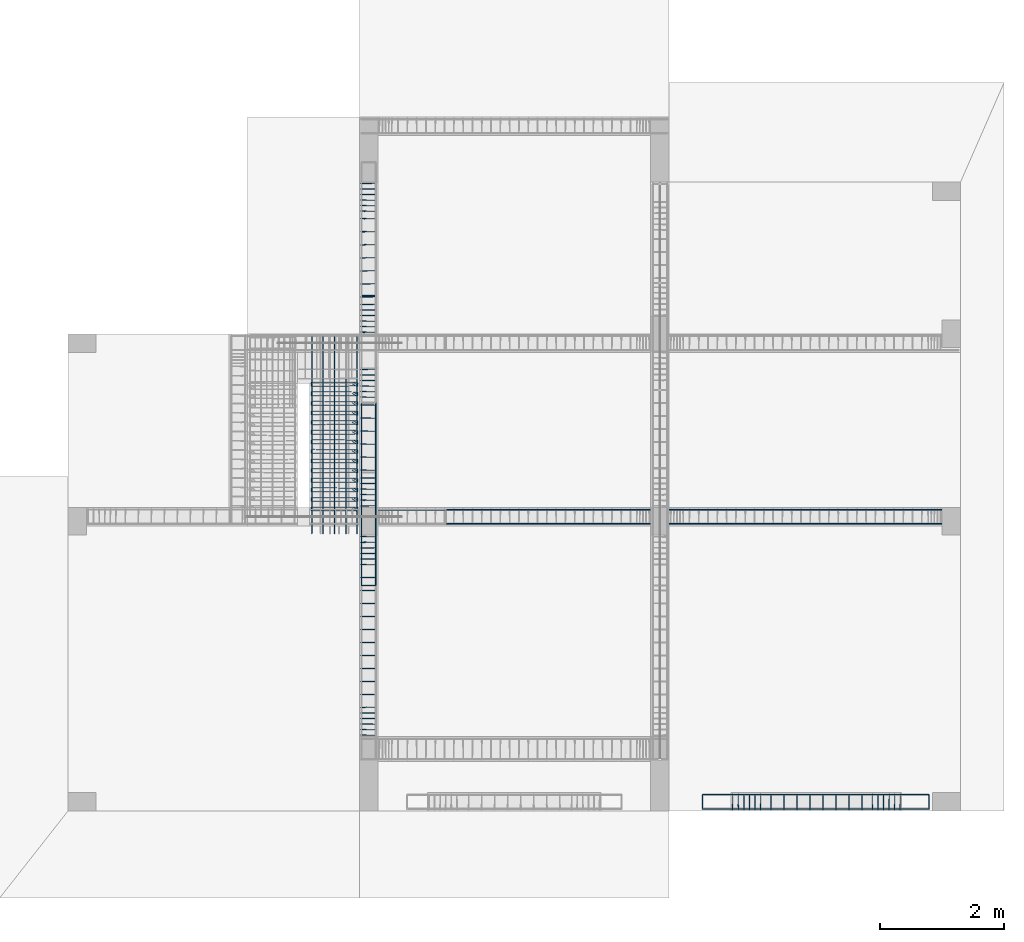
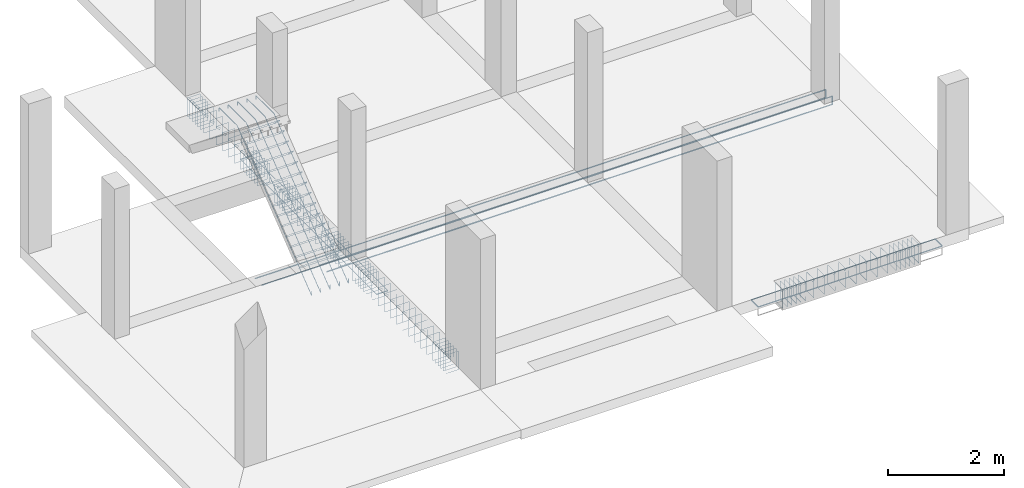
# One storey, part 3 of 5: 8 reinforcing bars.
"""IFC4 building model written with IfcOpenShell, lengths in metres."""

from ifc_helpers import new_model, entity, si_unit, frame, origin_with_axes, place, context, project, spatial, source, transform, mapped, element, save


model = new_model("IFC4")

# Units and contexts
model_context = context("Model", 3, precision=1e-05, world=origin_with_axes())
ifc_project = project(units=[si_unit("LENGTHUNIT", "METRE"), si_unit("AREAUNIT", "SQUARE_METRE"), si_unit("VOLUMEUNIT", "CUBIC_METRE"), si_unit("MASSUNIT", "GRAM", prefix="KILO"), si_unit("TIMEUNIT", "SECOND"), si_unit("PLANEANGLEUNIT", "RADIAN"), si_unit("SOLIDANGLEUNIT", "STERADIAN"), si_unit("THERMODYNAMICTEMPERATUREUNIT", "DEGREE_CELSIUS")], contexts=[model_context])

# Site, building, storey
placement_1 = place(None, origin_with_axes())
site = spatial("IfcSite", under=ifc_project, at=placement_1, Name="Italia", CompositionType="ELEMENT")
building = spatial("IfcBuilding", under=site, at=placement_1, Name="Bifamiliare", CompositionType="ELEMENT")
storey_placement = place(None, frame((0.0, 0.0, 2.799999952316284), z_axis=(0.0, 0.0, 1.0), x_axis=(1.0, 0.0, 0.0)))
storey = spatial("IfcBuildingStorey", under=building, at=storey_placement, Name="Storey 1", CompositionType="ELEMENT", Elevation=2.799999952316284)

# Reinforcing bars
shared_shape_1 = source(origin_with_axes(), model_context, "Body", "AdvancedSweptSolid", [
    entity("IfcSweptDiskSolid", entity("IfcIndexedPolyCurve", entity("IfcCartesianPointList3D", [[5.42418, 6.036, 2.595], [5.95, 6.036, 2.595], [15.455, 6.036, 2.595], [15.4588, 6.036, 2.59576], [15.4621, 6.036, 2.59793], [15.4642, 6.036, 2.60117], [15.465, 6.036, 2.605], [15.465, 6.036, 2.765]]), [entity("IfcLineIndex", [1, 2]), entity("IfcLineIndex", [2, 3]), entity("IfcLineIndex", [3, 4]), entity("IfcLineIndex", [4, 5]), entity("IfcLineIndex", [5, 6]), entity("IfcLineIndex", [6, 7]), entity("IfcLineIndex", [7, 8])], False), 0.008),
])
placement_2 = place(placement_1, origin_with_axes())
reinforcing_bar_1_placement = place(placement_2, origin_with_axes())
element("IfcReinforcingBar", 1, at=reinforcing_bar_1_placement, inside=storey, BarLength=10.2064, CrossSectionArea=0.00020106, NominalDiameter=0.016, context=model_context, shape_type="MappedRepresentation", body=[
    mapped(shared_shape_1, transform((0.0, 0.228001, 0.0), x_axis=(1.0, 0.0, 0.0), y_axis=(0.0, 1.0, 0.0), z_axis=(0.0, 0.0, 1.0), scale=1.0)),
    mapped(shared_shape_1, transform((0.0, 0.0, 0.0), x_axis=(1.0, 0.0, 0.0), y_axis=(0.0, 1.0, 0.0), z_axis=(0.0, 0.0, 1.0), scale=1.0)),
])
shared_shape_2 = source(origin_with_axes(), model_context, "Body", "AdvancedSweptSolid", [
    entity("IfcSweptDiskSolid", entity("IfcIndexedPolyCurve", entity("IfcCartesianPointList3D", [[4.135, 6.035, 2.765], [4.59509, 6.035, 2.765], [15.455, 6.035, 2.765], [15.4588, 6.035, 2.76424], [15.4621, 6.035, 2.76207], [15.4642, 6.035, 2.75883], [15.465, 6.035, 2.755], [15.465, 6.035, 2.595]]), [entity("IfcLineIndex", [1, 2]), entity("IfcLineIndex", [2, 3]), entity("IfcLineIndex", [3, 4]), entity("IfcLineIndex", [4, 5]), entity("IfcLineIndex", [5, 6]), entity("IfcLineIndex", [6, 7]), entity("IfcLineIndex", [7, 8])], False), 0.007),
])
reinforcing_bar_2_placement = place(placement_2, origin_with_axes())
element("IfcReinforcingBar", 2, at=reinforcing_bar_2_placement, inside=storey, BarLength=11.4956, CrossSectionArea=0.00015394, NominalDiameter=0.014, context=model_context, shape_type="MappedRepresentation", body=[
    mapped(shared_shape_2, transform((0.0, 0.23, 0.0), x_axis=(1.0, 0.0, 0.0), y_axis=(0.0, 1.0, 0.0), z_axis=(0.0, 0.0, 1.0), scale=1.0)),
    mapped(shared_shape_2, transform((0.0, 0.0, 0.0), x_axis=(1.0, 0.0, 0.0), y_axis=(0.0, 1.0, 0.0), z_axis=(0.0, 0.0, 1.0), scale=1.0)),
])
shared_shape_3 = source(origin_with_axes(), model_context, "Body", "AdvancedSweptSolid", [
    entity("IfcSweptDiskSolid", entity("IfcIndexedPolyCurve", entity("IfcCartesianPointList3D", [[5.89471, 2.62, 2.68429], [5.82693, 2.62059, 2.75207], [5.824, 2.62064, 2.75914], [5.824, 2.62068, 2.766], [5.82476, 2.6207, 2.76983], [5.82693, 2.62073, 2.77307], [5.83017, 2.62075, 2.77524], [5.834, 2.62078, 2.776], [6.066, 2.6222, 2.776], [6.06983, 2.62223, 2.77524], [6.07307, 2.62225, 2.77307], [6.07524, 2.62228, 2.76983], [6.076, 2.6223, 2.766], [6.076, 2.62459, 2.394], [6.07524, 2.62461, 2.39017], [6.07307, 2.62464, 2.38693], [6.06983, 2.62466, 2.38476], [6.066, 2.62469, 2.384], [5.834, 2.62611, 2.384], [5.83017, 2.62614, 2.38476], [5.82693, 2.62616, 2.38693], [5.82476, 2.62618, 2.39017], [5.824, 2.62621, 2.394], [5.824, 2.6285, 2.766], [5.82476, 2.62852, 2.76983], [5.82693, 2.62855, 2.77307], [5.83017, 2.62857, 2.77524], [5.834, 2.62859, 2.776], [5.84086, 2.62864, 2.776], [5.84793, 2.62868, 2.77307], [5.91571, 2.62927, 2.70529]]), [entity("IfcLineIndex", [1, 2]), entity("IfcLineIndex", [2, 3]), entity("IfcLineIndex", [3, 4]), entity("IfcLineIndex", [4, 5]), entity("IfcLineIndex", [5, 6]), entity("IfcLineIndex", [6, 7]), entity("IfcLineIndex", [7, 8]), entity("IfcLineIndex", [8, 9]), entity("IfcLineIndex", [9, 10]), entity("IfcLineIndex", [10, 11]), entity("IfcLineIndex", [11, 12]), entity("IfcLineIndex", [12, 13]), entity("IfcLineIndex", [13, 14]), entity("IfcLineIndex", [14, 15]), entity("IfcLineIndex", [15, 16]), entity("IfcLineIndex", [16, 17]), entity("IfcLineIndex", [17, 18]), entity("IfcLineIndex", [18, 19]), entity("IfcLineIndex", [19, 20]), entity("IfcLineIndex", [20, 21]), entity("IfcLineIndex", [21, 22]), entity("IfcLineIndex", [22, 23]), entity("IfcLineIndex", [23, 24]), entity("IfcLineIndex", [24, 25]), entity("IfcLineIndex", [25, 26]), entity("IfcLineIndex", [26, 27]), entity("IfcLineIndex", [27, 28]), entity("IfcLineIndex", [28, 29]), entity("IfcLineIndex", [29, 30]), entity("IfcLineIndex", [30, 31])], False), 0.004),
])
reinforcing_bar_3_placement = place(placement_2, origin_with_axes())
element("IfcReinforcingBar", 3, at=reinforcing_bar_3_placement, inside=storey, BarLength=1.50681, CrossSectionArea=5.0265e-05, NominalDiameter=0.008, context=model_context, shape_type="MappedRepresentation", body=[
    mapped(shared_shape_3, transform((-3.14713e-05, 4.48608, -1.33514e-05), x_axis=(1.0, -1.2016e-05, 0.0), y_axis=(1.20113e-05, 1.0, 0.0), z_axis=(0.0, 0.0, 1.0), scale=1.0)),
    mapped(shared_shape_3, transform((-3.14713e-05, 4.90608, -1.33514e-05), x_axis=(1.0, -1.2016e-05, 0.0), y_axis=(1.20113e-05, 1.0, 0.0), z_axis=(0.0, 0.0, 1.0), scale=1.0)),
    mapped(shared_shape_3, transform((-3.14713e-05, 4.69608, -1.33514e-05), x_axis=(1.0, -1.2016e-05, 0.0), y_axis=(1.20113e-05, 1.0, 0.0), z_axis=(0.0, 0.0, 1.0), scale=1.0)),
    mapped(shared_shape_3, transform((-3.14713e-05, 5.11608, -1.33514e-05), x_axis=(1.0, -1.2016e-05, 0.0), y_axis=(1.20113e-05, 1.0, 0.0), z_axis=(0.0, 0.0, 1.0), scale=1.0)),
    mapped(shared_shape_3, transform((0.0, 0.45, 0.0), x_axis=(1.0, 0.0, 0.0), y_axis=(0.0, 1.0, 0.0), z_axis=(0.0, 0.0, 1.0), scale=1.0)),
    mapped(shared_shape_3, transform((-3.14713e-05, 5.32608, -1.33514e-05), x_axis=(1.0, -1.2016e-05, 0.0), y_axis=(1.20113e-05, 1.0, 0.0), z_axis=(0.0, 0.0, 1.0), scale=1.0)),
    mapped(shared_shape_3, transform((-3.14713e-05, 2.12608, -1.33514e-05), x_axis=(1.0, -1.2016e-05, 0.0), y_axis=(1.20113e-05, 1.0, 0.0), z_axis=(0.0, 0.0, 1.0), scale=1.0)),
    mapped(shared_shape_3, transform((0.0, 1.076, 0.0), x_axis=(1.0, 0.0, 0.0), y_axis=(0.0, 1.0, 0.0), z_axis=(0.0, 0.0, 1.0), scale=1.0)),
    mapped(shared_shape_3, transform((0.0, 0.866, 0.0), x_axis=(1.0, 0.0, 0.0), y_axis=(0.0, 1.0, 0.0), z_axis=(0.0, 0.0, 1.0), scale=1.0)),
    mapped(shared_shape_3, transform((0.0, 1.286, 0.0), x_axis=(1.0, 0.0, 0.0), y_axis=(0.0, 1.0, 0.0), z_axis=(0.0, 0.0, 1.0), scale=1.0)),
    mapped(shared_shape_3, transform((-3.14713e-05, 1.70608, -1.33514e-05), x_axis=(1.0, -1.2016e-05, 0.0), y_axis=(1.20113e-05, 1.0, 0.0), z_axis=(0.0, 0.0, 1.0), scale=1.0)),
    mapped(shared_shape_3, transform((-3.14713e-05, 1.49608, -1.33514e-05), x_axis=(1.0, -1.2016e-05, 0.0), y_axis=(1.20113e-05, 1.0, 0.0), z_axis=(0.0, 0.0, 1.0), scale=1.0)),
    mapped(shared_shape_3, transform((-3.14713e-05, 1.91608, -1.33514e-05), x_axis=(1.0, -1.2016e-05, 0.0), y_axis=(1.20113e-05, 1.0, 0.0), z_axis=(0.0, 0.0, 1.0), scale=1.0)),
    mapped(shared_shape_3, transform((-3.14713e-05, 2.33608, -1.33514e-05), x_axis=(1.0, -1.2016e-05, 0.0), y_axis=(1.20113e-05, 1.0, 0.0), z_axis=(0.0, 0.0, 1.0), scale=1.0)),
    mapped(shared_shape_3, transform((0.0, 0.656, 0.0), x_axis=(1.0, 0.0, 0.0), y_axis=(0.0, 1.0, 0.0), z_axis=(0.0, 0.0, 1.0), scale=1.0)),
    mapped(shared_shape_3, transform((-3.14713e-05, 2.54608, -1.33514e-05), x_axis=(1.0, -1.2016e-05, 0.0), y_axis=(1.20113e-05, 1.0, 0.0), z_axis=(0.0, 0.0, 1.0), scale=1.0)),
    mapped(shared_shape_3, transform((-3.14713e-05, 2.84208, -1.33514e-05), x_axis=(1.0, -1.2016e-05, 0.0), y_axis=(1.20113e-05, 1.0, 0.0), z_axis=(0.0, 0.0, 1.0), scale=1.0)),
    mapped(shared_shape_3, transform((-3.14713e-05, 2.75208, -1.33514e-05), x_axis=(1.0, -1.2016e-05, 0.0), y_axis=(1.20113e-05, 1.0, 0.0), z_axis=(0.0, 0.0, 1.0), scale=1.0)),
    mapped(shared_shape_3, transform((-3.14713e-05, 2.93208, -1.33514e-05), x_axis=(1.0, -1.2016e-05, 0.0), y_axis=(1.20113e-05, 1.0, 0.0), z_axis=(0.0, 0.0, 1.0), scale=1.0)),
    mapped(shared_shape_3, transform((-3.14713e-05, 4.15008, -1.33514e-05), x_axis=(1.0, -1.2016e-05, 0.0), y_axis=(1.20113e-05, 1.0, 0.0), z_axis=(0.0, 0.0, 1.0), scale=1.0)),
    mapped(shared_shape_3, transform((-3.14713e-05, 3.02208, -1.33514e-05), x_axis=(1.0, -1.2016e-05, 0.0), y_axis=(1.20113e-05, 1.0, 0.0), z_axis=(0.0, 0.0, 1.0), scale=1.0)),
    mapped(shared_shape_3, transform((-3.14713e-05, 3.20208, -1.33514e-05), x_axis=(1.0, -1.2016e-05, 0.0), y_axis=(1.20113e-05, 1.0, 0.0), z_axis=(0.0, 0.0, 1.0), scale=1.0)),
    mapped(shared_shape_3, transform((-3.14713e-05, 3.79008, -1.33514e-05), x_axis=(1.0, -1.2016e-05, 0.0), y_axis=(1.20113e-05, 1.0, 0.0), z_axis=(0.0, 0.0, 1.0), scale=1.0)),
    mapped(shared_shape_3, transform((-3.14713e-05, 3.70008, -1.33514e-05), x_axis=(1.0, -1.2016e-05, 0.0), y_axis=(1.20113e-05, 1.0, 0.0), z_axis=(0.0, 0.0, 1.0), scale=1.0)),
    mapped(shared_shape_3, transform((-3.14713e-05, 3.88008, -1.33514e-05), x_axis=(1.0, -1.2016e-05, 0.0), y_axis=(1.20113e-05, 1.0, 0.0), z_axis=(0.0, 0.0, 1.0), scale=1.0)),
    mapped(shared_shape_3, transform((-3.14713e-05, 4.06008, -1.33514e-05), x_axis=(1.0, -1.2016e-05, 0.0), y_axis=(1.20113e-05, 1.0, 0.0), z_axis=(0.0, 0.0, 1.0), scale=1.0)),
    mapped(shared_shape_3, transform((-3.14713e-05, 3.97008, -1.33514e-05), x_axis=(1.0, -1.2016e-05, 0.0), y_axis=(1.20113e-05, 1.0, 0.0), z_axis=(0.0, 0.0, 1.0), scale=1.0)),
    mapped(shared_shape_3, transform((-3.14713e-05, 3.11208, -1.33514e-05), x_axis=(1.0, -1.2016e-05, 0.0), y_axis=(1.20113e-05, 1.0, 0.0), z_axis=(0.0, 0.0, 1.0), scale=1.0)),
    mapped(shared_shape_3, transform((0.0, 0.0, 0.0), x_axis=(1.0, 0.0, 0.0), y_axis=(0.0, 1.0, 0.0), z_axis=(0.0, 0.0, 1.0), scale=1.0)),
    mapped(shared_shape_3, transform((-3.14713e-05, 4.27608, -1.33514e-05), x_axis=(1.0, -1.2016e-05, 0.0), y_axis=(1.20113e-05, 1.0, 0.0), z_axis=(0.0, 0.0, 1.0), scale=1.0)),
    mapped(shared_shape_3, transform((0.0, 0.0899999, 0.0), x_axis=(1.0, 0.0, 0.0), y_axis=(0.0, 1.0, 0.0), z_axis=(0.0, 0.0, 1.0), scale=1.0)),
    mapped(shared_shape_3, transform((0.0, 0.27, 0.0), x_axis=(1.0, 0.0, 0.0), y_axis=(0.0, 1.0, 0.0), z_axis=(0.0, 0.0, 1.0), scale=1.0)),
    mapped(shared_shape_3, transform((0.0, 0.18, 0.0), x_axis=(1.0, 0.0, 0.0), y_axis=(0.0, 1.0, 0.0), z_axis=(0.0, 0.0, 1.0), scale=1.0)),
    mapped(shared_shape_3, transform((0.0, 0.36, 0.0), x_axis=(1.0, 0.0, 0.0), y_axis=(0.0, 1.0, 0.0), z_axis=(0.0, 0.0, 1.0), scale=1.0)),
    mapped(shared_shape_3, transform((0.000330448, 6.58893, 0.000320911), x_axis=(1.0, 0.000127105, 0.0), y_axis=(-0.00012711, 1.0, -0.000120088), z_axis=(0.0, 0.000120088, 1.0), scale=1.0)),
    mapped(shared_shape_3, transform((0.000330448, 6.76893, 0.000320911), x_axis=(1.0, 0.000127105, 0.0), y_axis=(-0.00012711, 1.0, -0.000120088), z_axis=(0.0, 0.000120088, 1.0), scale=1.0)),
    mapped(shared_shape_3, transform((0.000330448, 6.67893, 0.000320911), x_axis=(1.0, 0.000127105, 0.0), y_axis=(-0.00012711, 1.0, -0.000120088), z_axis=(0.0, 0.000120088, 1.0), scale=1.0)),
    mapped(shared_shape_3, transform((0.000330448, 6.85893, 0.000320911), x_axis=(1.0, 0.000127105, 0.0), y_axis=(-0.00012711, 1.0, -0.000120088), z_axis=(0.0, 0.000120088, 1.0), scale=1.0)),
    mapped(shared_shape_3, transform((0.000330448, 5.90093, 0.000320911), x_axis=(1.0, 0.000127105, 0.0), y_axis=(-0.00012711, 1.0, -0.000120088), z_axis=(0.0, 0.000120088, 1.0), scale=1.0)),
    mapped(shared_shape_3, transform((0.000330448, 5.81093, 0.000320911), x_axis=(1.0, 0.000127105, 0.0), y_axis=(-0.00012711, 1.0, -0.000120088), z_axis=(0.0, 0.000120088, 1.0), scale=1.0)),
    mapped(shared_shape_3, transform((0.000330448, 6.49893, 0.000320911), x_axis=(1.0, 0.000127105, 0.0), y_axis=(-0.00012711, 1.0, -0.000120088), z_axis=(0.0, 0.000120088, 1.0), scale=1.0)),
    mapped(shared_shape_3, transform((0.000330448, 5.54093, 0.000320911), x_axis=(1.0, 0.000127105, 0.0), y_axis=(-0.00012711, 1.0, -0.000120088), z_axis=(0.0, 0.000120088, 1.0), scale=1.0)),
    mapped(shared_shape_3, transform((0.000330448, 5.45093, 0.000320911), x_axis=(1.0, 0.000127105, 0.0), y_axis=(-0.00012711, 1.0, -0.000120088), z_axis=(0.0, 0.000120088, 1.0), scale=1.0)),
    mapped(shared_shape_3, transform((0.000330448, 5.63093, 0.000320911), x_axis=(1.0, 0.000127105, 0.0), y_axis=(-0.00012711, 1.0, -0.000120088), z_axis=(0.0, 0.000120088, 1.0), scale=1.0)),
    mapped(shared_shape_3, transform((0.000330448, 6.94893, 0.000320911), x_axis=(1.0, 0.000127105, 0.0), y_axis=(-0.00012711, 1.0, -0.000120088), z_axis=(0.0, 0.000120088, 1.0), scale=1.0)),
    mapped(shared_shape_3, transform((0.000330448, 5.72093, 0.000320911), x_axis=(1.0, 0.000127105, 0.0), y_axis=(-0.00012711, 1.0, -0.000120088), z_axis=(0.0, 0.000120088, 1.0), scale=1.0)),
    mapped(shared_shape_3, transform((0.000330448, 7.06993, 0.000320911), x_axis=(1.0, 0.000127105, 0.0), y_axis=(-0.00012711, 1.0, -0.000120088), z_axis=(0.0, 0.000120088, 1.0), scale=1.0)),
    mapped(shared_shape_3, transform((0.000330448, 8.63093, 0.000320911), x_axis=(1.0, 0.000127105, 0.0), y_axis=(-0.00012711, 1.0, -0.000120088), z_axis=(0.0, 0.000120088, 1.0), scale=1.0)),
    mapped(shared_shape_3, transform((0.000330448, 7.27993, 0.000320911), x_axis=(1.0, 0.000127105, 0.0), y_axis=(-0.00012711, 1.0, -0.000120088), z_axis=(0.0, 0.000120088, 1.0), scale=1.0)),
    mapped(shared_shape_3, transform((0.000330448, 8.72093, 0.000320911), x_axis=(1.0, 0.000127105, 0.0), y_axis=(-0.00012711, 1.0, -0.000120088), z_axis=(0.0, 0.000120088, 1.0), scale=1.0)),
    mapped(shared_shape_3, transform((0.000330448, 8.90093, 0.000320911), x_axis=(1.0, 0.000127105, 0.0), y_axis=(-0.00012711, 1.0, -0.000120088), z_axis=(0.0, 0.000120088, 1.0), scale=1.0)),
    mapped(shared_shape_3, transform((0.000330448, 8.81093, 0.000320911), x_axis=(1.0, 0.000127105, 0.0), y_axis=(-0.00012711, 1.0, -0.000120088), z_axis=(0.0, 0.000120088, 1.0), scale=1.0)),
    mapped(shared_shape_3, transform((0.000330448, 8.32993, 0.000320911), x_axis=(1.0, 0.000127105, 0.0), y_axis=(-0.00012711, 1.0, -0.000120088), z_axis=(0.0, 0.000120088, 1.0), scale=1.0)),
    mapped(shared_shape_3, transform((0.000330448, 8.54093, 0.000320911), x_axis=(1.0, 0.000127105, 0.0), y_axis=(-0.00012711, 1.0, -0.000120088), z_axis=(0.0, 0.000120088, 1.0), scale=1.0)),
    mapped(shared_shape_3, transform((0.000330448, 8.45093, 0.000320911), x_axis=(1.0, 0.000127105, 0.0), y_axis=(-0.00012711, 1.0, -0.000120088), z_axis=(0.0, 0.000120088, 1.0), scale=1.0)),
    mapped(shared_shape_3, transform((0.000330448, 7.48993, 0.000320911), x_axis=(1.0, 0.000127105, 0.0), y_axis=(-0.00012711, 1.0, -0.000120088), z_axis=(0.0, 0.000120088, 1.0), scale=1.0)),
    mapped(shared_shape_3, transform((0.000330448, 7.90993, 0.000320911), x_axis=(1.0, 0.000127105, 0.0), y_axis=(-0.00012711, 1.0, -0.000120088), z_axis=(0.0, 0.000120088, 1.0), scale=1.0)),
    mapped(shared_shape_3, transform((0.000330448, 7.69993, 0.000320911), x_axis=(1.0, 0.000127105, 0.0), y_axis=(-0.00012711, 1.0, -0.000120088), z_axis=(0.0, 0.000120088, 1.0), scale=1.0)),
    mapped(shared_shape_3, transform((0.000330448, 8.11993, 0.000320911), x_axis=(1.0, 0.000127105, 0.0), y_axis=(-0.00012711, 1.0, -0.000120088), z_axis=(0.0, 0.000120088, 1.0), scale=1.0)),
])
shared_shape_4 = source(origin_with_axes(), model_context, "Body", "AdvancedSweptSolid", [
    entity("IfcSweptDiskSolid", entity("IfcIndexedPolyCurve", entity("IfcCartesianPointList3D", [[6.064, 5.0375, 2.586], [5.844, 5.0375, 2.586], [5.84017, 5.03826, 2.586], [5.83693, 5.04043, 2.586], [5.83476, 5.04367, 2.586], [5.834, 5.0475, 2.586], [5.834, 9.7025, 2.586], [5.83476, 9.70633, 2.586], [5.83693, 9.70957, 2.586], [5.84017, 9.71174, 2.586], [5.844, 9.7125, 2.586], [6.064, 9.7125, 2.586]]), [entity("IfcLineIndex", [1, 2]), entity("IfcLineIndex", [2, 3]), entity("IfcLineIndex", [3, 4]), entity("IfcLineIndex", [4, 5]), entity("IfcLineIndex", [5, 6]), entity("IfcLineIndex", [6, 7]), entity("IfcLineIndex", [7, 8]), entity("IfcLineIndex", [8, 9]), entity("IfcLineIndex", [9, 10]), entity("IfcLineIndex", [10, 11]), entity("IfcLineIndex", [11, 12])], False), 0.006),
])
reinforcing_bar_4_placement = place(placement_2, origin_with_axes())
element("IfcReinforcingBar", 4, at=reinforcing_bar_4_placement, inside=storey, BarLength=5.12622, CrossSectionArea=0.0001131, NominalDiameter=0.012, context=model_context, shape_type="MappedRepresentation", body=[
    mapped(shared_shape_4, transform((11.9, 0.0, 5.16), x_axis=(-1.0, 0.0, 0.0), y_axis=(0.0, 1.0, 0.0), z_axis=(0.0, 0.0, -1.0), scale=1.0)),
    mapped(shared_shape_4, transform((0.0, 0.0, 0.0), x_axis=(1.0, 0.0, 0.0), y_axis=(0.0, 1.0, 0.0), z_axis=(0.0, 0.0, 1.0), scale=1.0)),
])
shared_shape_5 = source(origin_with_axes(), model_context, "Body", "AdvancedSweptSolid", [
    entity("IfcSweptDiskSolid", entity("IfcIndexedPolyCurve", entity("IfcCartesianPointList3D", [[11.828, 1.49471, 2.68429], [11.8274, 1.42693, 2.75207], [11.8274, 1.424, 2.75914], [11.8273, 1.424, 2.766], [11.8273, 1.42476, 2.76983], [11.8273, 1.42693, 2.77307], [11.8272, 1.43017, 2.77524], [11.8272, 1.434, 2.776], [11.8258, 1.666, 2.776], [11.8258, 1.66983, 2.77524], [11.8257, 1.67307, 2.77307], [11.8257, 1.67524, 2.76983], [11.8257, 1.676, 2.766], [11.8234, 1.676, 2.394], [11.8234, 1.67524, 2.39017], [11.8234, 1.67307, 2.38693], [11.8233, 1.66983, 2.38476], [11.8233, 1.666, 2.384], [11.8219, 1.434, 2.384], [11.8219, 1.43017, 2.38476], [11.8218, 1.42693, 2.38693], [11.8218, 1.42476, 2.39017], [11.8218, 1.424, 2.394], [11.8195, 1.424, 2.766], [11.8195, 1.42476, 2.76983], [11.8195, 1.42693, 2.77307], [11.8194, 1.43017, 2.77524], [11.8194, 1.434, 2.776], [11.8194, 1.44086, 2.776], [11.8193, 1.44793, 2.77307], [11.8187, 1.51571, 2.70529]]), [entity("IfcLineIndex", [1, 2]), entity("IfcLineIndex", [2, 3]), entity("IfcLineIndex", [3, 4]), entity("IfcLineIndex", [4, 5]), entity("IfcLineIndex", [5, 6]), entity("IfcLineIndex", [6, 7]), entity("IfcLineIndex", [7, 8]), entity("IfcLineIndex", [8, 9]), entity("IfcLineIndex", [9, 10]), entity("IfcLineIndex", [10, 11]), entity("IfcLineIndex", [11, 12]), entity("IfcLineIndex", [12, 13]), entity("IfcLineIndex", [13, 14]), entity("IfcLineIndex", [14, 15]), entity("IfcLineIndex", [15, 16]), entity("IfcLineIndex", [16, 17]), entity("IfcLineIndex", [17, 18]), entity("IfcLineIndex", [18, 19]), entity("IfcLineIndex", [19, 20]), entity("IfcLineIndex", [20, 21]), entity("IfcLineIndex", [21, 22]), entity("IfcLineIndex", [22, 23]), entity("IfcLineIndex", [23, 24]), entity("IfcLineIndex", [24, 25]), entity("IfcLineIndex", [25, 26]), entity("IfcLineIndex", [26, 27]), entity("IfcLineIndex", [27, 28]), entity("IfcLineIndex", [28, 29]), entity("IfcLineIndex", [29, 30]), entity("IfcLineIndex", [30, 31])], False), 0.004),
])
reinforcing_bar_5_placement = place(placement_2, origin_with_axes())
element("IfcReinforcingBar", 5, at=reinforcing_bar_5_placement, inside=storey, BarLength=1.50681, CrossSectionArea=5.0265e-05, NominalDiameter=0.008, context=model_context, shape_type="MappedRepresentation", body=[
    mapped(shared_shape_5, transform((0.615999, 0.0, 0.0), x_axis=(1.0, 0.0, 0.0), y_axis=(0.0, 1.0, 0.0), z_axis=(0.0, 0.0, 1.0), scale=1.0)),
    mapped(shared_shape_5, transform((0.449999, 0.0, 0.0), x_axis=(1.0, 0.0, 0.0), y_axis=(0.0, 1.0, 0.0), z_axis=(0.0, 0.0, 1.0), scale=1.0)),
    mapped(shared_shape_5, transform((1.036, 0.0, 0.0), x_axis=(1.0, 0.0, 0.0), y_axis=(0.0, 1.0, 0.0), z_axis=(0.0, 0.0, 1.0), scale=1.0)),
    mapped(shared_shape_5, transform((0.825999, 0.0, 0.0), x_axis=(1.0, 0.0, 0.0), y_axis=(0.0, 1.0, 0.0), z_axis=(0.0, 0.0, 1.0), scale=1.0)),
    mapped(shared_shape_5, transform((0.0, 0.0, 0.0), x_axis=(1.0, 0.0, 0.0), y_axis=(0.0, 1.0, 0.0), z_axis=(0.0, 0.0, 1.0), scale=1.0)),
    mapped(shared_shape_5, transform((1.246, 0.0, 0.0), x_axis=(1.0, 0.0, 0.0), y_axis=(0.0, 1.0, 0.0), z_axis=(0.0, 0.0, 1.0), scale=1.0)),
    mapped(shared_shape_5, transform((0.179999, 0.0, 0.0), x_axis=(1.0, 0.0, 0.0), y_axis=(0.0, 1.0, 0.0), z_axis=(0.0, 0.0, 1.0), scale=1.0)),
    mapped(shared_shape_5, transform((0.0899992, 0.0, 0.0), x_axis=(1.0, 0.0, 0.0), y_axis=(0.0, 1.0, 0.0), z_axis=(0.0, 0.0, 1.0), scale=1.0)),
    mapped(shared_shape_5, transform((0.359999, 0.0, 0.0), x_axis=(1.0, 0.0, 0.0), y_axis=(0.0, 1.0, 0.0), z_axis=(0.0, 0.0, 1.0), scale=1.0)),
    mapped(shared_shape_5, transform((0.27, 0.0, 0.0), x_axis=(1.0, 0.0, 0.0), y_axis=(0.0, 1.0, 0.0), z_axis=(0.0, 0.0, 1.0), scale=1.0)),
    mapped(shared_shape_5, transform((2.432, 0.0, 0.0), x_axis=(1.0, 0.0, 0.0), y_axis=(0.0, 1.0, 0.0), z_axis=(0.0, 0.0, 1.0), scale=1.0)),
    mapped(shared_shape_5, transform((2.342, 0.0, 0.0), x_axis=(1.0, 0.0, 0.0), y_axis=(0.0, 1.0, 0.0), z_axis=(0.0, 0.0, 1.0), scale=1.0)),
    mapped(shared_shape_5, transform((2.612, 0.0, 0.0), x_axis=(1.0, 0.0, 0.0), y_axis=(0.0, 1.0, 0.0), z_axis=(0.0, 0.0, 1.0), scale=1.0)),
    mapped(shared_shape_5, transform((2.522, 0.0, 0.0), x_axis=(1.0, 0.0, 0.0), y_axis=(0.0, 1.0, 0.0), z_axis=(0.0, 0.0, 1.0), scale=1.0)),
    mapped(shared_shape_5, transform((1.456, 0.0, 0.0), x_axis=(1.0, 0.0, 0.0), y_axis=(0.0, 1.0, 0.0), z_axis=(0.0, 0.0, 1.0), scale=1.0)),
    mapped(shared_shape_5, transform((2.702, 0.0, 0.0), x_axis=(1.0, 0.0, 0.0), y_axis=(0.0, 1.0, 0.0), z_axis=(0.0, 0.0, 1.0), scale=1.0)),
    mapped(shared_shape_5, transform((1.876, 0.0, 0.0), x_axis=(1.0, 0.0, 0.0), y_axis=(0.0, 1.0, 0.0), z_axis=(0.0, 0.0, 1.0), scale=1.0)),
    mapped(shared_shape_5, transform((1.666, 0.0, 0.0), x_axis=(1.0, 0.0, 0.0), y_axis=(0.0, 1.0, 0.0), z_axis=(0.0, 0.0, 1.0), scale=1.0)),
    mapped(shared_shape_5, transform((2.252, 0.0, 0.0), x_axis=(1.0, 0.0, 0.0), y_axis=(0.0, 1.0, 0.0), z_axis=(0.0, 0.0, 1.0), scale=1.0)),
    mapped(shared_shape_5, transform((2.086, 0.0, 0.0), x_axis=(1.0, 0.0, 0.0), y_axis=(0.0, 1.0, 0.0), z_axis=(0.0, 0.0, 1.0), scale=1.0)),
])
shared_shape_6 = source(origin_with_axes(), model_context, "Body", "AdvancedSweptSolid", [
    entity("IfcSweptDiskSolid", entity("IfcIndexedPolyCurve", entity("IfcCartesianPointList3D", [[11.335, 1.436, 2.586], [11.335, 1.656, 2.586], [11.3358, 1.65983, 2.586], [11.3379, 1.66307, 2.586], [11.3412, 1.66524, 2.586], [11.345, 1.666, 2.586], [14.98, 1.666, 2.586], [14.9838, 1.66524, 2.586], [14.9871, 1.66307, 2.586], [14.9892, 1.65983, 2.586], [14.99, 1.656, 2.586], [14.99, 1.436, 2.586]]), [entity("IfcLineIndex", [1, 2]), entity("IfcLineIndex", [2, 3]), entity("IfcLineIndex", [3, 4]), entity("IfcLineIndex", [4, 5]), entity("IfcLineIndex", [5, 6]), entity("IfcLineIndex", [6, 7]), entity("IfcLineIndex", [7, 8]), entity("IfcLineIndex", [8, 9]), entity("IfcLineIndex", [9, 10]), entity("IfcLineIndex", [10, 11]), entity("IfcLineIndex", [11, 12])], False), 0.006),
])
reinforcing_bar_6_placement = place(placement_2, origin_with_axes())
element("IfcReinforcingBar", 6, at=reinforcing_bar_6_placement, inside=storey, BarLength=4.10622, CrossSectionArea=0.0001131, NominalDiameter=0.012, context=model_context, shape_type="MappedRepresentation", body=[
    mapped(shared_shape_6, transform((0.0, 3.1, 5.16), x_axis=(1.0, 0.0, 0.0), y_axis=(0.0, -1.0, 0.0), z_axis=(0.0, 0.0, -1.0), scale=1.0)),
    mapped(shared_shape_6, transform((0.0, 0.0, 0.0), x_axis=(1.0, 0.0, 0.0), y_axis=(0.0, 1.0, 0.0), z_axis=(0.0, 0.0, 1.0), scale=1.0)),
])
shared_shape_7 = source(origin_with_axes(), model_context, "Body", "AdvancedSweptSolid", [
    entity("IfcSweptDiskSolid", entity("IfcIndexedPolyCurve", entity("IfcCartesianPointList3D", [[5.70529, 6.30078, 2.65333], [5.77307, 6.2585, 2.70631], [5.776, 6.25409, 2.71184], [5.776, 6.24983, 2.71721], [5.77524, 6.24744, 2.72021], [5.77307, 6.24542, 2.72274], [5.76983, 6.24407, 2.72444], [5.766, 6.24358, 2.72502], [5.034, 6.24091, 2.72292], [5.03017, 6.24136, 2.72231], [5.02693, 6.24269, 2.72059], [5.02476, 6.24468, 2.71803], [5.024, 6.24704, 2.71501], [5.024, 6.29747, 2.65036], [5.02476, 6.29982, 2.64734], [5.02693, 6.30182, 2.64478], [5.03017, 6.30314, 2.64306], [5.034, 6.3036, 2.64245], [5.766, 6.30092, 2.64035], [5.76983, 6.30044, 2.64093], [5.77307, 6.29908, 2.64263], [5.77524, 6.29706, 2.64516], [5.776, 6.29468, 2.64816], [5.776, 6.24365, 2.71235], [5.77524, 6.24127, 2.71534], [5.77307, 6.23924, 2.71788], [5.76983, 6.23789, 2.71957], [5.766, 6.2374, 2.72016], [5.75914, 6.23738, 2.72014], [5.75207, 6.23916, 2.71781], [5.68429, 6.28075, 2.66429]]), [entity("IfcLineIndex", [1, 2]), entity("IfcLineIndex", [2, 3]), entity("IfcLineIndex", [3, 4]), entity("IfcLineIndex", [4, 5]), entity("IfcLineIndex", [5, 6]), entity("IfcLineIndex", [6, 7]), entity("IfcLineIndex", [7, 8]), entity("IfcLineIndex", [8, 9]), entity("IfcLineIndex", [9, 10]), entity("IfcLineIndex", [10, 11]), entity("IfcLineIndex", [11, 12]), entity("IfcLineIndex", [12, 13]), entity("IfcLineIndex", [13, 14]), entity("IfcLineIndex", [14, 15]), entity("IfcLineIndex", [15, 16]), entity("IfcLineIndex", [16, 17]), entity("IfcLineIndex", [17, 18]), entity("IfcLineIndex", [18, 19]), entity("IfcLineIndex", [19, 20]), entity("IfcLineIndex", [20, 21]), entity("IfcLineIndex", [21, 22]), entity("IfcLineIndex", [22, 23]), entity("IfcLineIndex", [23, 24]), entity("IfcLineIndex", [24, 25]), entity("IfcLineIndex", [25, 26]), entity("IfcLineIndex", [26, 27]), entity("IfcLineIndex", [27, 28]), entity("IfcLineIndex", [28, 29]), entity("IfcLineIndex", [29, 30]), entity("IfcLineIndex", [30, 31])], False), 0.004),
])
reinforcing_bar_7_placement = place(placement_2, origin_with_axes())
element("IfcReinforcingBar", 7, at=reinforcing_bar_7_placement, inside=storey, BarLength=1.9268, CrossSectionArea=5.0265e-05, NominalDiameter=0.008, context=model_context, shape_type="MappedRepresentation", body=[
    mapped(shared_shape_7, transform((-0.000392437, 1.3946, 1.09874), x_axis=(1.0, -4.57168e-05, -3.82364e-05), y_axis=(4.60446e-05, 1.0, -5.71609e-05), z_axis=(3.8239e-05, 5.71591e-05, 1.0), scale=1.0)),
    mapped(shared_shape_7, transform((-8.39233e-05, 1.7044, 1.34233), x_axis=(1.0, -1.12057e-05, 0.0), y_axis=(1.10567e-05, 1.0, -1.6734e-05), z_axis=(0.0, 1.67339e-05, 1.0), scale=1.0)),
    mapped(shared_shape_7, transform((0.0, 0.0, 0.0), x_axis=(1.0, 0.0, 0.0), y_axis=(0.0, 1.0, 0.0), z_axis=(0.0, 0.0, 1.0), scale=1.0)),
    mapped(shared_shape_7, transform((0.000226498, 0.154882, 0.121677), x_axis=(1.0, 2.69711e-05, 2.15471e-05), y_axis=(-2.69115e-05, 1.0, 3.45856e-05), z_axis=(-2.15461e-05, -3.45862e-05, 1.0), scale=1.0)),
    mapped(shared_shape_7, transform((0.000516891, 1.08446, 0.853359), x_axis=(1.0, 6.02603e-05, 5.15878e-05), y_axis=(-6.02901e-05, 1.0, 7.47889e-05), z_axis=(-5.15833e-05, -7.4792e-05, 1.0), scale=1.0)),
    mapped(shared_shape_7, transform((0.000911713, 0.464557, 0.364745), x_axis=(1.0, 0.00010848, 8.55327e-05), y_axis=(-0.000108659, 1.0, 0.000130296), z_axis=(-8.55185e-05, -0.000130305, 1.0), scale=1.0)),
    mapped(shared_shape_7, transform((0.00108624, 0.309587, 0.242413), x_axis=(1.0, 0.000128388, 0.000104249), y_axis=(-0.000128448, 1.0, 0.000163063), z_axis=(-0.000104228, -0.000163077, 1.0), scale=1.0)),
    mapped(shared_shape_7, transform((0.000443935, 1.23944, 0.975438), x_axis=(1.0, 5.05149e-05, 4.67598e-05), y_axis=(-5.07832e-05, 1.0, 6.95884e-05), z_axis=(-4.67563e-05, -6.95908e-05, 1.0), scale=1.0)),
    mapped(shared_shape_7, transform((0.000586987, 1.54927, 1.2193), x_axis=(1.0, 6.98268e-05, 5.57601e-05), y_axis=(-6.97374e-05, 1.0, 8.9407e-05), z_axis=(-5.57539e-05, -8.94109e-05, 1.0), scale=1.0)),
    mapped(shared_shape_7, transform((0.000586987, 1.85916, 1.46333), x_axis=(1.0, 6.98268e-05, 5.57601e-05), y_axis=(-6.97374e-05, 1.0, 8.9407e-05), z_axis=(-5.57539e-05, -8.94109e-05, 1.0), scale=1.0)),
    mapped(shared_shape_7, transform((0.000635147, 0.774522, 0.609182), x_axis=(1.0, 7.689e-05, 5.69224e-05), y_axis=(-7.69198e-05, 1.0, 9.23127e-05), z_axis=(-5.69153e-05, -9.23171e-05, 1.0), scale=1.0)),
    mapped(shared_shape_7, transform((0.000671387, 0.619566, 0.487118), x_axis=(1.0, 8.01086e-05, 6.29425e-05), y_axis=(-8.0049e-05, 1.0, 9.42051e-05), z_axis=(-6.2935e-05, -9.42102e-05, 1.0), scale=1.0)),
    mapped(shared_shape_7, transform((0.000827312, 0.929432, 0.73087), x_axis=(1.0, 9.8139e-05, 7.83503e-05), y_axis=(-9.8288e-05, 1.0, 0.000125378), z_axis=(-7.8338e-05, -0.000125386, 1.0), scale=1.0)),
    mapped(shared_shape_7, transform((0.00259352, 2.01346, 1.58256), x_axis=(1.0, 0.000309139, 0.00024271), y_axis=(-0.000309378, 1.0, 0.000362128), z_axis=(-0.000242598, -0.000362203, 1.0), scale=1.0)),
])
shared_shape_8 = source(origin_with_axes(), model_context, "Body", "AdvancedSweptSolid", [
    entity("IfcSweptDiskSolid", entity("IfcIndexedPolyCurve", entity("IfcCartesianPointList3D", [[5.765, 5.8775, 2.42273], [5.765, 5.8775, 2.3415], [5.765, 5.87902, 2.3362], [5.765, 5.88313, 2.33251], [5.765, 5.88857, 2.33156], [5.765, 5.89368, 2.33365], [5.765, 6.075, 2.47643], [5.765, 8.33984, 4.26], [5.765, 8.43871, 4.33786], [5.765, 8.4449, 4.34], [5.765, 8.825, 4.34], [5.765, 9.055, 4.34], [5.765, 9.05883, 4.33924], [5.765, 9.06207, 4.33707], [5.765, 9.06424, 4.33383], [5.765, 9.065, 4.33], [5.765, 9.065, 4.26]]), [entity("IfcLineIndex", [1, 2]), entity("IfcLineIndex", [2, 3]), entity("IfcLineIndex", [3, 4]), entity("IfcLineIndex", [4, 5]), entity("IfcLineIndex", [5, 6]), entity("IfcLineIndex", [6, 7]), entity("IfcLineIndex", [7, 8]), entity("IfcLineIndex", [8, 9]), entity("IfcLineIndex", [9, 10]), entity("IfcLineIndex", [10, 11]), entity("IfcLineIndex", [11, 12]), entity("IfcLineIndex", [12, 13]), entity("IfcLineIndex", [13, 14]), entity("IfcLineIndex", [14, 15]), entity("IfcLineIndex", [15, 16]), entity("IfcLineIndex", [16, 17])], False), 0.007),
])
reinforcing_bar_8_placement = place(placement_2, origin_with_axes())
element("IfcReinforcingBar", 8, at=reinforcing_bar_8_placement, inside=storey, BarLength=4.04502, CrossSectionArea=0.00015394, NominalDiameter=0.014, context=model_context, shape_type="MappedRepresentation", body=[
    mapped(shared_shape_8, transform((0.0, 0.0, 0.0), x_axis=(1.0, 0.0, 0.0), y_axis=(0.0, 1.0, 0.0), z_axis=(0.0, 0.0, 1.0), scale=1.0)),
    mapped(shared_shape_8, transform((-0.73, 0.0, 0.0), x_axis=(1.0, 0.0, 0.0), y_axis=(0.0, 1.0, 0.0), z_axis=(0.0, 0.0, 1.0), scale=1.0)),
    mapped(shared_shape_8, transform((-0.179, 0.0, 0.0), x_axis=(1.0, 0.0, 0.0), y_axis=(0.0, 1.0, 0.0), z_axis=(0.0, 0.0, 1.0), scale=1.0)),
    mapped(shared_shape_8, transform((-0.365, 0.0, 0.0), x_axis=(1.0, 0.0, 0.0), y_axis=(0.0, 1.0, 0.0), z_axis=(0.0, 0.0, 1.0), scale=1.0)),
    mapped(shared_shape_8, transform((-0.551, 0.0, 0.0), x_axis=(1.0, 0.0, 0.0), y_axis=(0.0, 1.0, 0.0), z_axis=(0.0, 0.0, 1.0), scale=1.0)),
])

save(model, "model.ifc")
